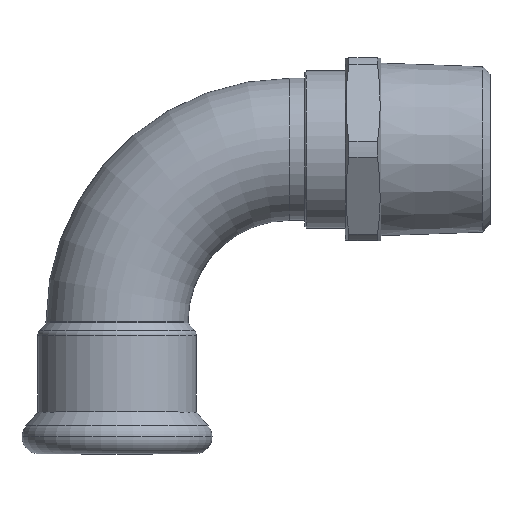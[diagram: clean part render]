
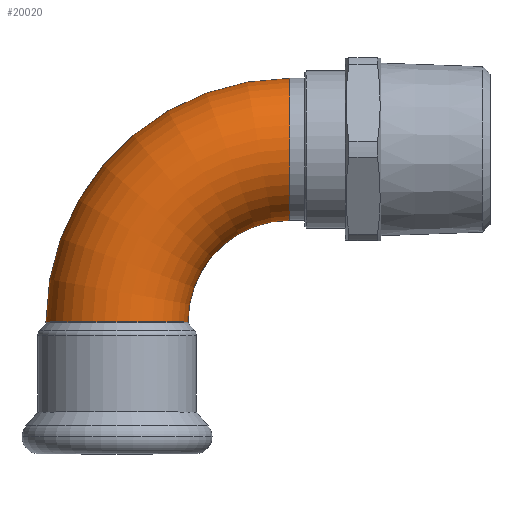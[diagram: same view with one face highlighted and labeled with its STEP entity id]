
A CAD part, top view. The second image highlights one B-rep face of the part: STEP entity #20020.
In plain terms, the highlighted toroidal (fillet/blend) face has major radius 34 mm and minor radius 14 mm.
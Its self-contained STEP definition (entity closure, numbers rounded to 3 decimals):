
#14950=CARTESIAN_POINT('',(-91.071,-305.306,
0.));
#14960=VERTEX_POINT('',#14950);
#15040=CARTESIAN_POINT('',(-91.071,-333.306,
0.));
#15050=VERTEX_POINT('',#15040);
#15270=CARTESIAN_POINT('',(-111.071,-353.306,
0.));
#15280=VERTEX_POINT('',#15270);
#15310=CARTESIAN_POINT('',(-125.071,-353.306,
0.));
#15320=DIRECTION('',(0.,-1.,0.));
#15330=DIRECTION('',(1.,0.,0.));
#15340=AXIS2_PLACEMENT_3D('',#15310,#15320,#15330);
#15350=CIRCLE('',#15340,14.);
#15360=CARTESIAN_POINT('',(-139.071,-353.306,
0.));
#15370=VERTEX_POINT('',#15360);
#15500=CARTESIAN_POINT('',(-91.071,-353.306,
0.));
#15510=DIRECTION('',(0.,0.,1.));
#15520=DIRECTION('',(0.,1.,0.));
#15530=AXIS2_PLACEMENT_3D('',#15500,#15510,#15520);
#15540=TOROIDAL_SURFACE('',#15530,34.,14.);
#15550=CARTESIAN_POINT('',(-91.071,-353.306,
0.));
#15560=DIRECTION('',(0.,0.,1.));
#15570=DIRECTION('',(0.,1.,0.));
#15580=AXIS2_PLACEMENT_3D('',#15550,#15560,#15570);
#15590=CIRCLE('',#15580,20.);
#15600=EDGE_CURVE('',#15050,#15280,#15590,.T.);
#15630=CARTESIAN_POINT('',(-91.071,-353.306,
0.));
#15640=DIRECTION('',(0.,0.,1.));
#15650=DIRECTION('',(0.,1.,0.));
#15660=AXIS2_PLACEMENT_3D('',#15630,#15640,#15650);
#15670=CIRCLE('',#15660,48.);
#15680=EDGE_CURVE('',#14960,#15370,#15670,.T.);
#18860=CARTESIAN_POINT('',(-91.071,-319.306,
0.));
#18870=DIRECTION('',(-1.,0.,0.));
#18880=DIRECTION('',(0.,-1.,0.));
#18890=AXIS2_PLACEMENT_3D('',#18860,#18870,#18880);
#18900=CIRCLE('',#18890,14.);
#18910=EDGE_CURVE('',#15050,#14960,#18900,.T.);
#19810=EDGE_CURVE('',#15280,#15370,#15350,.T.);
#19960=ORIENTED_EDGE('',*,*,#19810,.F.);
#19970=ORIENTED_EDGE('',*,*,#15680,.T.);
#19980=ORIENTED_EDGE('',*,*,#18910,.T.);
#19990=ORIENTED_EDGE('',*,*,#15600,.F.);
#20000=EDGE_LOOP('',(#19990,#19980,#19970,#19960));
#20010=FACE_OUTER_BOUND('',#20000,.T.);
#20020=ADVANCED_FACE('',(#20010),#15540,.T.);
